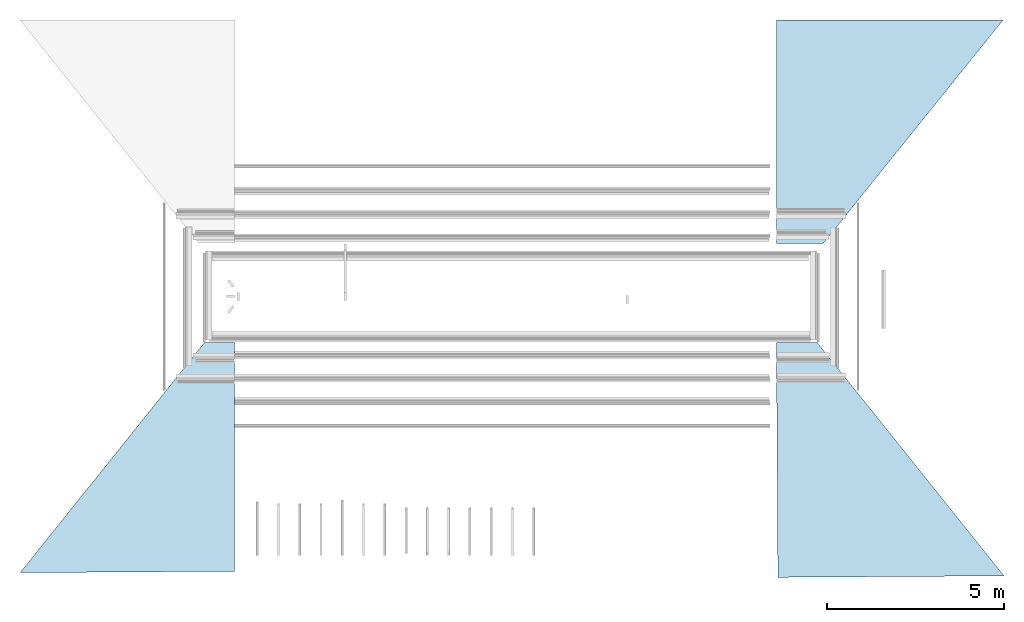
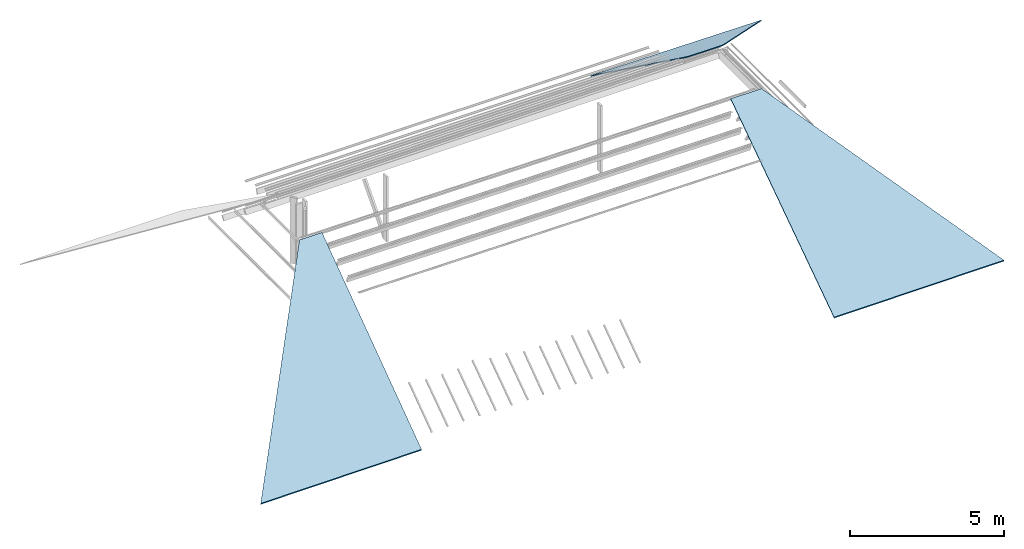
# One storey, part 6 of 6: 3 roofs.
"""IFC2X3 building model written with IfcOpenShell, lengths in centimetres."""

from ifc_helpers import new_model, entity, si_unit, converted_unit, direction, frame, origin, place, context, subcontext, project, spatial, faceted_brep, material, layer, layer_set, type_object, element, save


model = new_model("IFC2X3")

# Units and contexts
model_context = context("Model", 3, precision=0.001, world=frame((0.0, 0.0, 13090.0)), true_north=direction((6.123233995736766e-17, 1.0)))
body_context = subcontext(model_context, "Body", "Model", "MODEL_VIEW")
ifc_project = project(units=[si_unit("LENGTHUNIT", "METRE", prefix="CENTI"), si_unit("AREAUNIT", "SQUARE_METRE"), si_unit("VOLUMEUNIT", "CUBIC_METRE"), converted_unit("PLANEANGLEUNIT", "DEGREE", entity("IfcPlaneAngleMeasure", 0.017453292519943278), si_unit("PLANEANGLEUNIT", "RADIAN"), dimensions=[0, 0, 0, 0, 0, 0, 0])], contexts=[model_context])

# Site, building, storey
site_placement = place(None, origin())
site = spatial("IfcSite", under=ifc_project, at=site_placement, Name="Default", CompositionType="ELEMENT")
building_placement = place(site_placement, origin())
building = spatial("IfcBuilding", under=site, at=building_placement, Name="e 39 logements et 22 maisons relais", CompositionType="ELEMENT")
storey_placement = place(building_placement, frame((0.0, 0.0, 810.0)))
storey = spatial("IfcBuildingStorey", under=building, at=storey_placement, Name="R+3", CompositionType="ELEMENT", Elevation=810.0000000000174)

# Roofs
ifc_material = material(Name="tole")
ifc_layer = layer(ifc_material, 4.0)
ifc_layer_set = layer_set([ifc_layer], Name="Toit de base:Tôle 1000P")
type_product = type_object("IfcTypeProduct", Name="Toit de base:Tôle 1000P")
roof_1_placement = place(storey_placement, frame((-1527.4897677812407, -802.6966048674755, -475.0)))
element("IfcRoof", 1, at=roof_1_placement, inside=storey, type_object=type_product, material=ifc_layer_set, Name="Toit de base:Tôle 1000P", ObjectType="Toit de base:Tôle 1000P", ShapeType="NOTDEFINED", context=body_context, shape_type="Brep", body=[
    faceted_brep([(520.1450416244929, 649.9334566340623, 467.0), (353.6170401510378, 441.85280419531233, 317.4867479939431), (260.07252081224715, 324.9667283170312, 233.50000000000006), (0.0, 0.0, 0.0), (0.0, 0.0, 4.0), (260.07252081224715, 324.9667283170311, 237.49999999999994), (353.6170401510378, 441.8528041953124, 321.4867479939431), (520.1450416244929, 649.9334566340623, 471.0), (256.1204867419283, 1.6795569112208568, 0.0), (604.460293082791, 3.963858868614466, 0.0), (604.4602930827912, 3.963858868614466, 4.0), (256.1204867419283, 1.6795569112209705, 4.0), (604.4602930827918, 210.77545287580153, 149.51325067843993), (604.4602930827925, 417.5870468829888, 299.0265013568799), (604.4602930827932, 649.9334566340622, 467.0), (604.4602930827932, 649.9334566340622, 471.0), (604.4602930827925, 417.5870468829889, 303.0265013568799), (604.4602930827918, 210.77545287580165, 153.51325067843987), (555.8709038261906, 649.9334566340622, 467.0), (555.8709038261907, 649.9334566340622, 471.0), (441.6249496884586, 313.2353752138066, 228.2699038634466), (509.37334580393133, 485.1555193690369, 352.19471928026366), (509.37334580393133, 485.1555193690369, 348.1947192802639), (441.62494968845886, 313.2353752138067, 224.26990386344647)], [[[0, 1, 2, 3, 4, 5, 6, 7]], [[3, 8, 9, 10, 11, 4]], [[10, 9, 12, 13, 14, 15, 16, 17]], [[14, 18, 0, 7, 19, 15]], [[20, 21, 6]], [[11, 10, 17]], [[15, 19, 21]], [[20, 6, 5]], [[11, 17, 20]], [[11, 5, 4]], [[16, 20, 17]], [[19, 7, 6]], [[11, 20, 5]], [[21, 20, 16]], [[15, 21, 16]], [[6, 21, 19]], [[1, 22, 23]], [[12, 9, 8]], [[22, 18, 14]], [[2, 1, 23]], [[23, 12, 8]], [[3, 2, 8]], [[12, 23, 13]], [[1, 0, 18]], [[2, 23, 8]], [[13, 23, 22]], [[13, 22, 14]], [[18, 22, 1]]]),
])
roof_2_placement = place(storey_placement, frame((607.18658696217, -815.7747650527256, -479.0)))
element("IfcRoof", 2, at=roof_2_placement, inside=storey, type_object=type_product, material=ifc_layer_set, Name="Toit de base:Tôle 1000P", ObjectType="Toit de base:Tôle 1000P", ShapeType="NOTDEFINED", context=body_context, shape_type="Brep", body=[
    faceted_brep([(642.6477971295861, 4.082057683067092, 4.0), (642.6477971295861, 4.082057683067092, 0.0), (467.14176986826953, 223.38096439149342, 154.59063985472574), (378.97546308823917, 333.54683725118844, 232.2499999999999), (115.30312904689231, 663.0116168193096, 464.5), (115.30312904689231, 663.0116168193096, 468.5), (378.9754630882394, 333.5468372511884, 236.25), (467.14176986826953, 223.38096439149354, 158.59063985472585), (0.0, 663.0116168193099, 464.5000000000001), (1.4470016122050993, 442.3541596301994, 309.90936197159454), (2.894003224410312, 221.69670244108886, 155.31872394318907), (4.347819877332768, 0.0, 0.0), (4.347819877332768, 0.0, 4.0), (2.894003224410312, 221.69670244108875, 159.3187239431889), (1.4470016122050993, 442.3541596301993, 313.90936197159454), (0.0, 663.0116168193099, 468.5), (69.07344058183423, 663.0116168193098, 464.5), (69.07344058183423, 663.0116168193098, 468.5), (173.48214010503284, 332.95289421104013, 236.61401591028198), (225.9808862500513, 161.95860249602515, 116.52348991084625), (386.72750757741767, 2.445395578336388, 4.0), (225.98088625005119, 161.95860249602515, 112.5234899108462), (173.48214010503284, 332.9528942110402, 232.6140159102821), (386.72748115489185, 2.44539540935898, 0.0)], [[[0, 1, 2, 3, 4, 5, 6, 7]], [[8, 9, 10, 11, 12, 13, 14, 15]], [[4, 16, 8, 15, 17, 5]], [[18, 19, 7]], [[17, 15, 14]], [[12, 20, 19]], [[18, 7, 6]], [[17, 14, 18]], [[17, 6, 5]], [[13, 18, 14]], [[20, 0, 7]], [[17, 18, 6]], [[19, 18, 13]], [[12, 19, 13]], [[7, 19, 20]], [[2, 21, 22]], [[9, 8, 16]], [[21, 23, 11]], [[3, 2, 22]], [[22, 9, 16]], [[4, 3, 16]], [[9, 22, 10]], [[2, 1, 23]], [[3, 22, 16]], [[10, 22, 21]], [[10, 21, 11]], [[23, 21, 2]], [[11, 23, 1, 0, 20, 12]]]),
])
roof_3_placement = place(storey_placement, frame((607.6901005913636, 126.40209682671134, -479.0)))
element("IfcRoof", 3, at=roof_3_placement, inside=storey, type_object=type_product, material=ifc_layer_set, Name="Toit de base:Tôle 1000P", ObjectType="Toit de base:Tôle 1000P", ShapeType="NOTDEFINED", context=body_context, shape_type="Brep", body=[
    faceted_brep([(131.60138699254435, 0.0, 462.0), (385.5987061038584, 315.56158872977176, 231.0), (465.54944537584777, 414.8909139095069, 158.28812714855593), (639.5960252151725, 631.1231774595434, 0.0), (639.5960252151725, 631.1231774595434, 4.0), (465.549445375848, 414.8909139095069, 162.28812714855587), (385.5987061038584, 315.5615887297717, 235.0), (131.60138699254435, 0.0, 466.0), (394.44335023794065, 631.1231774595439, 1.533171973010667), (0.0, 631.1231774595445, 4.0), (0.0, 631.1231774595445, 8.0), (394.4433502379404, 631.1231774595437, 5.53317197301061), (0.0, 414.8909169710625, 160.91766495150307), (0.0, 198.6586564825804, 317.8353299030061), (0.0, 0.0, 462.0), (0.0, 0.0, 466.0), (0.0, 198.6586564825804, 321.8353299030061), (0.0, 414.8909169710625, 164.917664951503), (81.15949352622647, 0.0, 462.0), (81.15949352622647, 0.0, 466.0), (229.50072342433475, 474.4021739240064, 120.3869855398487), (171.38642399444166, 306.77475071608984, 242.49619249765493), (229.50072342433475, 474.4021739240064, 116.38698553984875), (171.38642399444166, 306.7747507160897, 238.49619249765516)], [[[0, 1, 2, 3, 4, 5, 6, 7]], [[4, 3, 8, 9, 10, 11]], [[10, 9, 12, 13, 14, 15, 16, 17]], [[14, 18, 0, 7, 19, 15]], [[10, 17, 20]], [[6, 19, 7]], [[16, 15, 19]], [[5, 11, 20]], [[17, 21, 20]], [[21, 19, 6]], [[16, 21, 17]], [[19, 21, 16]], [[6, 5, 21]], [[11, 5, 4]], [[5, 20, 21]], [[10, 20, 11]], [[22, 12, 9]], [[0, 18, 1]], [[18, 14, 13]], [[22, 8, 2]], [[22, 23, 12]], [[1, 18, 23]], [[12, 23, 13]], [[13, 23, 18]], [[23, 2, 1]], [[3, 2, 8]], [[23, 22, 2]], [[8, 22, 9]]]),
])

save(model, "model.ifc")
